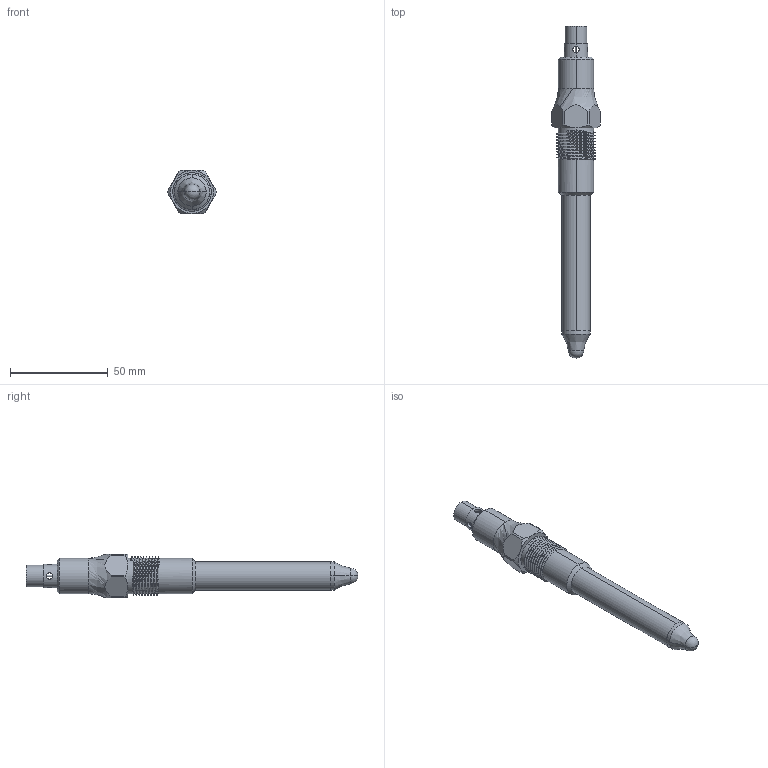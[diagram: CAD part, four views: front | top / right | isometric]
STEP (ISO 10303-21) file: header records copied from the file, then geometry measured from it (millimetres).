
FILE_DESCRIPTION (( 'STEP AP214' ), '1' );
FILE_NAME ('BLM1P3H-82.STEP', '2025-11-07T01:46:47', ( '' ), ( '' ), 'SwSTEP 2.0', 'SolidWorks 2025', '' );
FILE_SCHEMA (( 'AUTOMOTIVE_DESIGN' ));
Length unit declared in the file: millimetre
Products named in the file (1): BLM1P3H-82
Bounding box: 24.83 x 169.5 x 22 mm (x, y, z)
Volume: 33546.8 mm3; surface area: 10350.4 mm2
Topology: 2 solids, 2 shells, 96 faces, 255 edges, 157 vertices
Faces by surface type: cylinder 48, plane 21, sphere 10, cone 10, bspline 7
Entity records: 5198 total; most frequent: CARTESIAN_POINT 3092, ORIENTED_EDGE 480, DIRECTION 374, EDGE_CURVE 240, VERTEX_POINT 152, AXIS2_PLACEMENT_3D 151, EDGE_LOOP 108, ADVANCED_FACE 96
